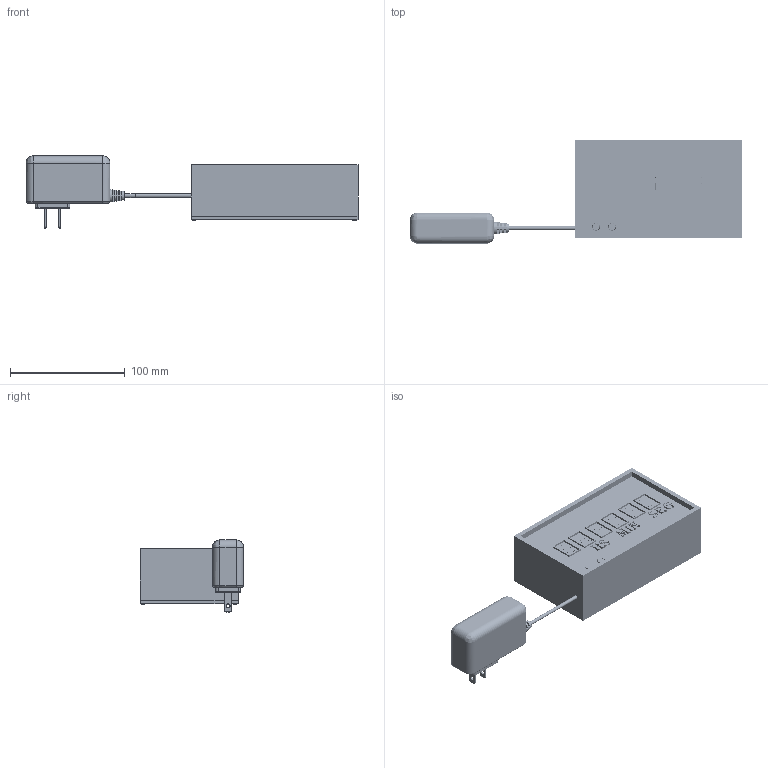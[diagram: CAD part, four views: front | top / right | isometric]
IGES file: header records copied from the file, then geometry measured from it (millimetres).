
Global section: file name: Reloj carcasa v10; native system: unknown; preprocessor: unknown; author: unknown; organization: unknown; date: 20251024.152234; units: millimetre
Bounding box: 288.81 x 89.66 x 62.76 mm (x, y, z)
Volume: 281618.7 mm3; surface area: 153685.4 mm2
Topology: 102 solids, 103 shells, 8441 faces, 22819 edges, 15131 vertices
Faces by surface type: bspline 8441
